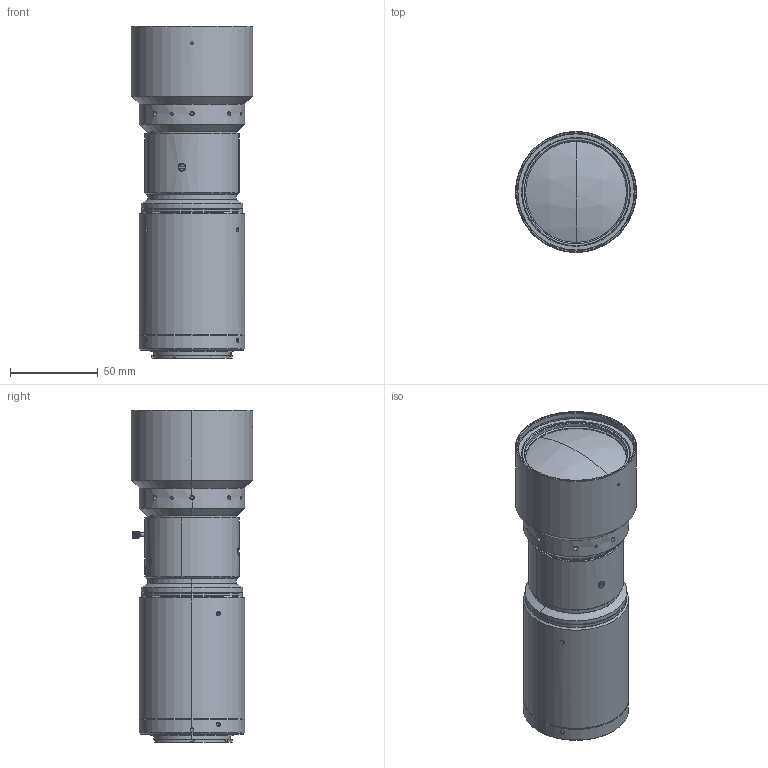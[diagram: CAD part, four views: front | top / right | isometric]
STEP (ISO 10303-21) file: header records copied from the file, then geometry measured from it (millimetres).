
FILE_DESCRIPTION (( 'STEP AP203' ), '1' );
FILE_NAME ('MML1.5-HR110VI-35F_A22049A0000101A-001.STEP', '2016-12-06T06:59:47', ( '' ), ( '' ), 'SwSTEP 2.0', 'SolidWorks 2014', '' );
FILE_SCHEMA (( 'CONFIG_CONTROL_DESIGN' ));
Length unit declared in the file: millimetre
Products named in the file (1): MML1.5-HR110VI-35F_A22049A0000101A-001
Bounding box: 69 x 69 x 189.15 mm (x, y, z)
Volume: 514466.9 mm3; surface area: 47376.6 mm2
Topology: 1 solids, 3 shells, 638 faces, 1656 edges, 1080 vertices
Faces by surface type: cylinder 223, plane 222, cone 171, bspline 18, sphere 2, torus 2
Entity records: 25426 total; most frequent: CARTESIAN_POINT 10277, ORIENTED_EDGE 3308, DIRECTION 2869, EDGE_CURVE 1654, VERTEX_POINT 1080, AXIS2_PLACEMENT_3D 1046, VECTOR 777, LINE 777
